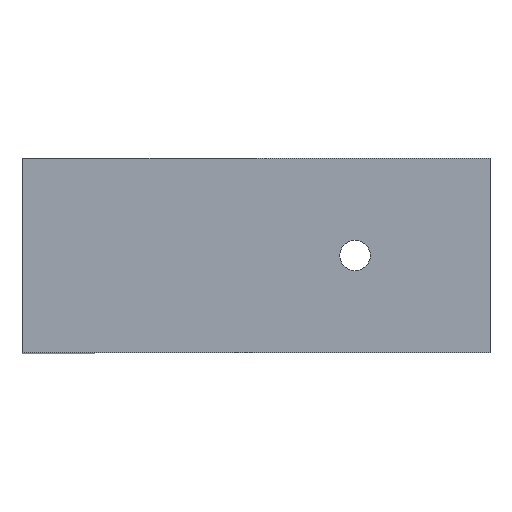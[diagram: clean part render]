
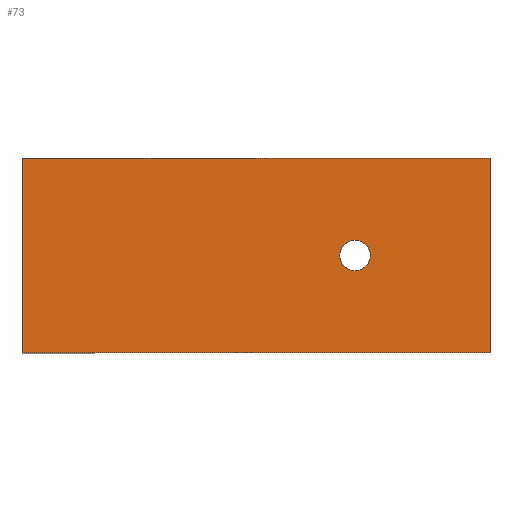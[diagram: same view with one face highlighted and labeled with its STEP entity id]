
A CAD part, top view. The second image highlights one B-rep face of the part: STEP entity #73.
In plain terms, the highlighted planar face has unit normal (0, 0, 1).
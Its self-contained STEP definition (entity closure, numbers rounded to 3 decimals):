
#47=FACE_BOUND('',#114,.T.);
#48=FACE_BOUND('',#115,.T.);
#59=CIRCLE('',#369,2.5);
#73=ADVANCED_FACE('',(#47,#48),#90,.F.);
#90=PLANE('',#370);
#114=EDGE_LOOP('',(#154));
#115=EDGE_LOOP('',(#155,#156,#157,#158));
#154=ORIENTED_EDGE('',*,*,#268,.T.);
#155=ORIENTED_EDGE('',*,*,#264,.T.);
#156=ORIENTED_EDGE('',*,*,#269,.F.);
#157=ORIENTED_EDGE('',*,*,#255,.F.);
#158=ORIENTED_EDGE('',*,*,#267,.T.);
#225=VERTEX_POINT('',#489);
#226=VERTEX_POINT('',#491);
#232=VERTEX_POINT('',#507);
#233=VERTEX_POINT('',#509);
#234=VERTEX_POINT('',#516);
#255=EDGE_CURVE('',#225,#226,#299,.T.);
#264=EDGE_CURVE('',#233,#232,#308,.T.);
#267=EDGE_CURVE('',#225,#233,#311,.T.);
#268=EDGE_CURVE('',#234,#234,#59,.T.);
#269=EDGE_CURVE('',#226,#232,#312,.T.);
#299=LINE('',#490,#333);
#308=LINE('',#508,#342);
#311=LINE('',#513,#345);
#312=LINE('',#517,#346);
#333=VECTOR('',#397,1.);
#342=VECTOR('',#410,1.);
#345=VECTOR('',#415,1.);
#346=VECTOR('',#420,1.);
#369=AXIS2_PLACEMENT_3D('',#515,#418,#419);
#370=AXIS2_PLACEMENT_3D('',#518,#421,#422);
#397=DIRECTION('',(-1.,0.,0.));
#410=DIRECTION('',(-1.,0.,0.));
#415=DIRECTION('',(0.,1.,0.));
#418=DIRECTION('',(0.,0.,-1.));
#419=DIRECTION('',(-1.,0.,0.));
#420=DIRECTION('',(0.,1.,0.));
#421=DIRECTION('',(0.,0.,-1.));
#422=DIRECTION('',(-1.,0.,0.));
#489=CARTESIAN_POINT('',(63.4,-60.,662.));
#490=CARTESIAN_POINT('',(63.4,-60.,662.));
#491=CARTESIAN_POINT('',(-13.6,-60.,662.));
#507=CARTESIAN_POINT('',(-13.6,-28.,662.));
#508=CARTESIAN_POINT('',(63.4,-28.,662.));
#509=CARTESIAN_POINT('',(63.4,-28.,662.));
#513=CARTESIAN_POINT('',(63.4,-60.,662.));
#515=CARTESIAN_POINT('',(41.2,-44.,662.));
#516=CARTESIAN_POINT('',(38.7,-44.,662.));
#517=CARTESIAN_POINT('',(-13.6,-60.,662.));
#518=CARTESIAN_POINT('',(63.4,-60.,662.));
